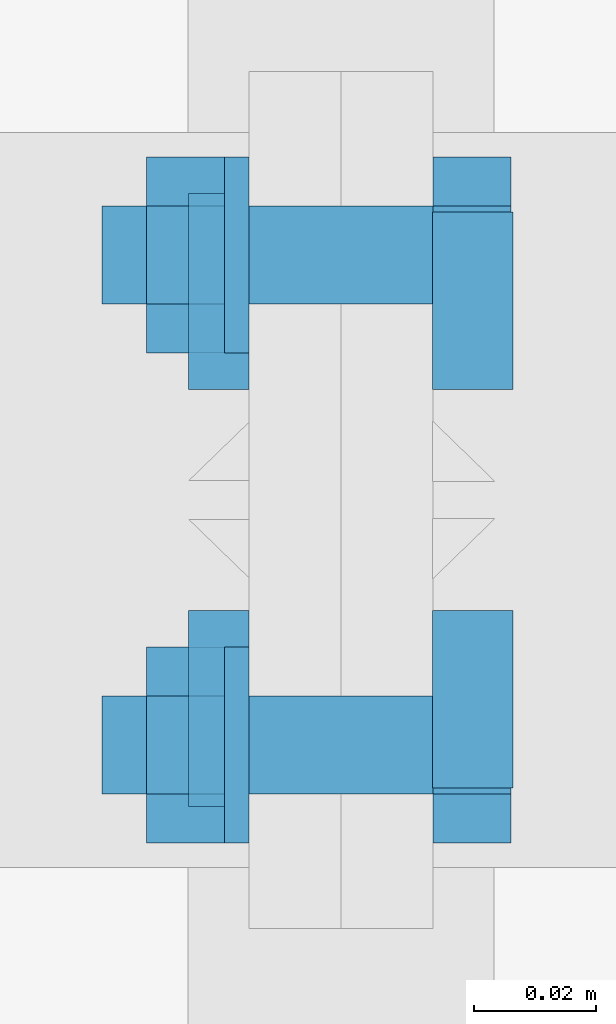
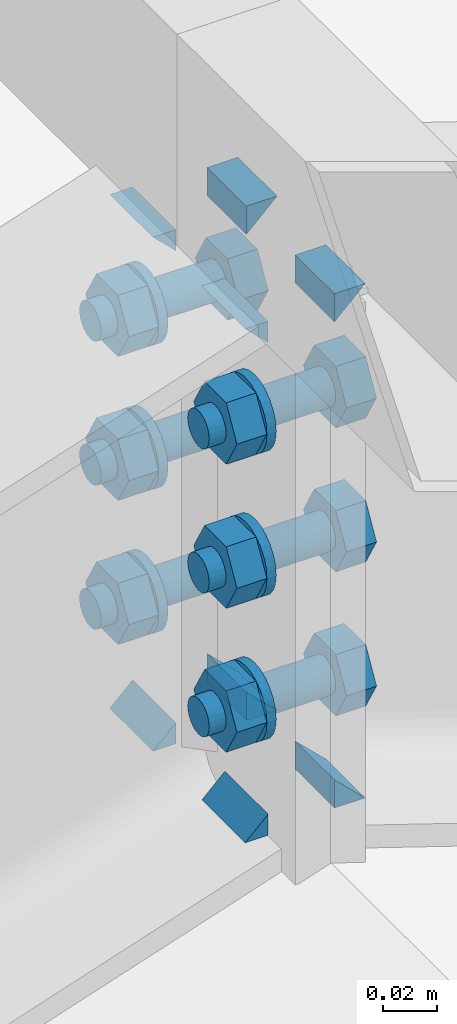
# One storey, part 29 of 53: 24 mechanical fasteners, 12 fasteners.
"""IFC4 building model written with IfcOpenShell, lengths in metres."""

import ifcopenshell
import ifcopenshell.guid

model = None  # the IFC model being written
_history = None  # IfcOwnerHistory: only IFC2X3 demands one
_inside = {}  # id of a spatial element -> (the spatial element, [elements in it])
_under = {}  # id of a project, library or spatial element -> (it, [spatial elements below it])
_declared = {}  # id of a project -> (the project, [libraries it declares])
_typed = {}  # id of a type object -> (the type object, [elements of that type])
_made_of = {}  # id of a material, layer set ... -> (it, [elements and type objects made of it])


def new_model(schema):
    """Start an empty IFC model of exactly this schema.

    Asked for "IFC4X3", IfcOpenShell would pick the latest addendum, in which some entities
    have other attributes; the version numbers below select the first issue.
    IFC2X3 requires an IfcOwnerHistory on every rooted entity: one is made here for all.
    """
    global model, _history
    if schema == "IFC4X3":
        model = ifcopenshell.file(schema_version=(4, 3, 0, 0))
    else:
        model = ifcopenshell.file(schema=schema)
    _inside.clear()
    _under.clear()
    _declared.clear()
    _typed.clear()
    _made_of.clear()
    _history = None
    if model.schema == "IFC2X3":
        org = make("IfcOrganization", Name="unknown")
        user = make(
            "IfcPersonAndOrganization",
            ThePerson=make("IfcPerson", FamilyName="unknown"),
            TheOrganization=org,
        )
        app = make(
            "IfcApplication",
            ApplicationDeveloper=org,
            Version="unknown",
            ApplicationFullName="unknown",
            ApplicationIdentifier="unknown",
        )
        _history = make(
            "IfcOwnerHistory",
            OwningUser=user,
            OwningApplication=app,
            ChangeAction="ADDED",
            CreationDate=0,
        )
    return model


def make(cls, **values):
    """One entity of the class cls with the attributes given. An attribute that is None is left unset."""
    return model.create_entity(
        cls, **{name: value for name, value in values.items() if value is not None}
    )


def rooted(cls, **values):
    """An entity with a GlobalId (a new one), such as an element, a storey or a relation."""
    return make(cls, GlobalId=ifcopenshell.guid.new(), OwnerHistory=_history, **values)


def si_unit(unit_type, name, prefix=None):
    """IfcSIUnit, for example si_unit("LENGTHUNIT", "METRE", prefix="MILLI")."""
    return make("IfcSIUnit", UnitType=unit_type, Prefix=prefix, Name=name)


def assignment(units):
    """IfcUnitAssignment: the units of a project."""
    return None if units is None else make("IfcUnitAssignment", Units=units)


def point(xyz):
    """IfcCartesianPoint."""
    return None if xyz is None else make("IfcCartesianPoint", Coordinates=xyz)


def direction(xyz):
    """IfcDirection."""
    return None if xyz is None else make("IfcDirection", DirectionRatios=xyz)


def frame(location, z_axis=None, x_axis=None):
    """IfcAxis2Placement3D, a coordinate frame: its origin and axes. An axis left out is left unset."""
    return make(
        "IfcAxis2Placement3D",
        Location=point(location),
        Axis=direction(z_axis),
        RefDirection=direction(x_axis),
    )


def origin_with_axes():
    """The frame at (0, 0, 0) with the z axis (0, 0, 1) and the x axis (1, 0, 0) written out."""
    return frame((0.0, 0.0, 0.0), z_axis=(0.0, 0.0, 1.0), x_axis=(1.0, 0.0, 0.0))


def place(relative_to, where):
    """IfcLocalPlacement: puts the frame where relative to a parent placement (None: the world)."""
    return make(
        "IfcLocalPlacement", PlacementRelTo=relative_to, RelativePlacement=where
    )


def context(
    kind, dimensions, precision=None, world=None, true_north=None, identifier=None
):
    """IfcGeometricRepresentationContext, for example the 3D "Model" context."""
    return make(
        "IfcGeometricRepresentationContext",
        ContextIdentifier=identifier,
        ContextType=kind,
        CoordinateSpaceDimension=dimensions,
        Precision=precision,
        WorldCoordinateSystem=world,
        TrueNorth=true_north,
    )


def project(units=None, contexts=None):
    """IfcProject with its units and contexts."""
    return rooted(
        "IfcProject",
        Name="project",
        RepresentationContexts=contexts,
        UnitsInContext=assignment(units),
    )


def spatial(cls, under=None, at=None, **own):
    """A site, building, storey or space (cls), placed at a placement, below another one or the project."""
    s = rooted(cls, ObjectPlacement=at, **own)
    if under is not None:
        _under.setdefault(under.id(), (under, []))[1].append(s)
    return s


def polyline(points):
    """IfcPolyline through the points."""
    return make("IfcPolyline", Points=[point(p) for p in points])


def outline(outer, holes=None, kind="AREA"):
    """IfcArbitraryClosedProfileDef: a profile drawn as a closed curve; with holes, ...WithVoids."""
    if holes is None:
        return make("IfcArbitraryClosedProfileDef", ProfileType=kind, OuterCurve=outer)
    return make(
        "IfcArbitraryProfileDefWithVoids",
        ProfileType=kind,
        OuterCurve=outer,
        InnerCurves=holes,
    )


def extrude(swept, where, along, depth):
    """IfcExtrudedAreaSolid: the profile swept, set in the frame where, extruded along a direction by depth."""
    return make(
        "IfcExtrudedAreaSolid",
        SweptArea=swept,
        Position=where,
        ExtrudedDirection=direction(along),
        Depth=depth,
    )


def shape(context_of_items, identifier, shape_type, items):
    """IfcShapeRepresentation: the items that make up one representation, for example the "Body"."""
    return make(
        "IfcShapeRepresentation",
        ContextOfItems=context_of_items,
        RepresentationIdentifier=identifier,
        RepresentationType=shape_type,
        Items=items,
    )


def made_of(thing, what):
    """Note that an element or type object is made of a material, layer set ...; save() writes the relation."""
    if what is not None:
        _made_of.setdefault(what.id(), (what, []))[1].append(thing)
    return thing


def type_object(cls, material=None, **own):
    """A type object (cls), such as IfcWallType, which elements share."""
    return made_of(rooted(cls, **own), material)


def element(
    cls,
    number,
    at=None,
    inside=None,
    cuts=None,
    type_object=None,
    material=None,
    context=None,
    identifier="Body",
    shape_type=None,
    held_by="IfcProductDefinitionShape",
    body=None,
    shapes=None,
    **own,
):
    """One element of the class cls, such as IfcWall. Its Tag is "e" and its number.

    at: its placement. inside: the storey or other place that contains it. cuts: it is an
    opening in that element (IfcRelVoidsElement). A single representation is given by context,
    identifier, shape_type and body (its items); several are given by shapes. held_by: the class
    of the entity that holds the representations. save() writes the other relations.
    """
    e = rooted(cls, Tag="e%d" % number, ObjectPlacement=at, **own)
    if body is not None:
        shapes = [shape(context, identifier, shape_type, body)]
    if shapes is not None:
        e.Representation = make(held_by, Representations=shapes)
    if inside is not None:
        _inside.setdefault(inside.id(), (inside, []))[1].append(e)
    if cuts is not None:
        rooted(
            "IfcRelVoidsElement", RelatingBuildingElement=cuts, RelatedOpeningElement=e
        )
    if type_object is not None:
        _typed.setdefault(type_object.id(), (type_object, []))[1].append(e)
    return made_of(e, material)


def aggregate(whole, parts):
    """IfcRelAggregates: a whole, such as a stair, and the parts it consists of."""
    return rooted("IfcRelAggregates", RelatingObject=whole, RelatedObjects=parts)


def save(model, path):
    """Write the relations noted so far, then the file.

    IfcRelAggregates (storeys below a building ...), IfcRelContainedInSpatialStructure (elements
    in a storey), IfcRelDefinesByType, IfcRelAssociatesMaterial and IfcRelDeclares: one each for
    every whole, place, type object, material and project.
    """
    for whole, parts in _under.values():
        aggregate(whole, parts)
    for where, things in _inside.values():
        rooted(
            "IfcRelContainedInSpatialStructure",
            RelatedElements=things,
            RelatingStructure=where,
        )
    for kind, things in _typed.values():
        rooted("IfcRelDefinesByType", RelatedObjects=things, RelatingType=kind)
    for what, things in _made_of.values():
        rooted("IfcRelAssociatesMaterial", RelatedObjects=things, RelatingMaterial=what)
    for by, libraries in _declared.values():
        rooted("IfcRelDeclares", RelatingContext=by, RelatedDefinitions=libraries)
    model.write(path)


model = new_model("IFC4")

# Units and contexts
model_context = context("Model", 3, precision=1e-05, world=origin_with_axes())
ifc_project = project(units=[si_unit("LENGTHUNIT", "METRE"), si_unit("AREAUNIT", "SQUARE_METRE"), si_unit("VOLUMEUNIT", "CUBIC_METRE"), si_unit("MASSUNIT", "GRAM", prefix="KILO"), si_unit("TIMEUNIT", "SECOND"), si_unit("PLANEANGLEUNIT", "RADIAN"), si_unit("SOLIDANGLEUNIT", "STERADIAN"), si_unit("THERMODYNAMICTEMPERATUREUNIT", "DEGREE_CELSIUS")], contexts=[model_context])

# Site, building, storey
placement_1 = place(None, origin_with_axes())
site = spatial("IfcSite", under=ifc_project, at=placement_1, Name="Italia", CompositionType="ELEMENT")
building = spatial("IfcBuilding", under=site, at=placement_1, Name="Capannone", CompositionType="ELEMENT")
storey_placement = place(None, frame((0.0, 0.0, 5.550000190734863), z_axis=(0.0, 0.0, 1.0), x_axis=(1.0, 0.0, 0.0)))
storey = spatial("IfcBuildingStorey", under=building, at=storey_placement, Name="Storey 1", CompositionType="ELEMENT", Elevation=5.550000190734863)

# Fasteners
fastener_type_1 = type_object("IfcFastenerType", Name="Collegamenti -1142_-1128 -1143_-1130 -1144_-1132 -1145_-1134 -1146_-1136 -1147_-1138", PredefinedType="WELD")
placement_2 = place(placement_1, origin_with_axes())
fastener_1_placement = place(placement_2, origin_with_axes())
element("IfcFastener", 1, at=fastener_1_placement, inside=storey, type_object=fastener_type_1, Name="Collegamenti -1142_-1128 -1143_-1130 -1144_-1132 -1145_-1134 -1146_-1136 -1147_-1138", context=model_context, shape_type="SweptSolid", body=[
    extrude(outline(polyline([(0.0, 0.0), (-0.0131736, 0.0127764), (4.76837e-07, 0.0127764), (0.0, 0.0)])), frame((7.01495, 5.95295, 8.07465), z_axis=(0.0, 1.0, 0.0), x_axis=(-1.0, 0.0, 0.0)), (0.0, 0.0, 1.0), 0.0289998),
])
fastener_type_2 = type_object("IfcFastenerType", Name="Collegamenti -1142_-1128 -1143_-1130 -1144_-1132 -1145_-1134 -1146_-1136 -1147_-1138", PredefinedType="WELD")
fastener_2_placement = place(placement_2, origin_with_axes())
element("IfcFastener", 2, at=fastener_2_placement, inside=storey, type_object=fastener_type_2, Name="Collegamenti -1142_-1128 -1143_-1130 -1144_-1132 -1145_-1134 -1146_-1136 -1147_-1138", context=model_context, shape_type="SweptSolid", body=[
    extrude(outline(polyline([(0.0, 0.0), (0.0131736, -0.0127788), (0.0, -0.0127788), (0.0, 0.0)])), frame((7.01495, 5.98195, 7.86811), z_axis=(0.0, -1.0, 0.0), x_axis=(1.0, 0.0, 0.0)), (0.0, 0.0, 1.0), 0.0289998),
])
fastener_type_3 = type_object("IfcFastenerType", Name="Collegamenti -1142_-1128 -1143_-1130 -1144_-1132 -1145_-1134 -1146_-1136 -1147_-1138", PredefinedType="WELD")
fastener_3_placement = place(placement_2, origin_with_axes())
element("IfcFastener", 3, at=fastener_3_placement, inside=storey, type_object=fastener_type_3, Name="Collegamenti -1142_-1128 -1143_-1130 -1144_-1132 -1145_-1134 -1146_-1136 -1147_-1138", context=model_context, shape_type="SweptSolid", body=[
    extrude(outline(polyline([(0.0, 0.0), (0.0131736, -0.0127788), (0.0, -0.0127788), (0.0, 0.0)])), frame((7.01495, 6.04705, 7.86811), z_axis=(0.0, -1.0, 0.0), x_axis=(1.0, 0.0, 0.0)), (0.0, 0.0, 1.0), 0.0289998),
])
fastener_type_4 = type_object("IfcFastenerType", Name="Collegamenti -1142_-1128 -1143_-1130 -1144_-1132 -1145_-1134 -1146_-1136 -1147_-1138", PredefinedType="WELD")
fastener_4_placement = place(placement_2, origin_with_axes())
element("IfcFastener", 4, at=fastener_4_placement, inside=storey, type_object=fastener_type_4, Name="Collegamenti -1142_-1128 -1143_-1130 -1144_-1132 -1145_-1134 -1146_-1136 -1147_-1138", context=model_context, shape_type="SweptSolid", body=[
    extrude(outline(polyline([(0.0, 0.0), (-0.0131736, 0.0127764), (4.76837e-07, 0.0127764), (0.0, 0.0)])), frame((7.01495, 6.01805, 8.07465), z_axis=(0.0, 1.0, 0.0), x_axis=(-1.0, 0.0, 0.0)), (0.0, 0.0, 1.0), 0.0289998),
])
fastener_type_5 = type_object("IfcFastenerType", Name="Collegamenti -1142_-1128 -1143_-1130 -1144_-1132 -1145_-1134 -1146_-1136 -1147_-1138", PredefinedType="WELD")
fastener_5_placement = place(placement_2, origin_with_axes())
element("IfcFastener", 5, at=fastener_5_placement, inside=storey, type_object=fastener_type_5, Name="Collegamenti -1142_-1128 -1143_-1130 -1144_-1132 -1145_-1134 -1146_-1136 -1147_-1138", context=model_context, shape_type="SweptSolid", body=[
    extrude(outline(polyline([(0.0, 0.0), (-0.0131736, 0.0127764), (4.76837e-07, 0.0127764), (0.0, 0.0)])), frame((7.01495, 5.95295, 8.07465), z_axis=(0.0, 1.0, 0.0), x_axis=(-1.0, 0.0, 0.0)), (0.0, 0.0, 1.0), 0.0289998),
])
fastener_type_6 = type_object("IfcFastenerType", Name="Collegamenti -1142_-1128 -1143_-1130 -1144_-1132 -1145_-1134 -1146_-1136 -1147_-1138", PredefinedType="WELD")
fastener_6_placement = place(placement_2, origin_with_axes())
element("IfcFastener", 6, at=fastener_6_placement, inside=storey, type_object=fastener_type_6, Name="Collegamenti -1142_-1128 -1143_-1130 -1144_-1132 -1145_-1134 -1146_-1136 -1147_-1138", context=model_context, shape_type="SweptSolid", body=[
    extrude(outline(polyline([(0.0, 0.0), (0.0131736, -0.0127788), (0.0, -0.0127788), (0.0, 0.0)])), frame((7.01495, 5.98195, 7.86811), z_axis=(0.0, -1.0, 0.0), x_axis=(1.0, 0.0, 0.0)), (0.0, 0.0, 1.0), 0.0289998),
])
fastener_type_7 = type_object("IfcFastenerType", Name="Collegamenti -1142_-1128 -1143_-1130 -1144_-1132 -1145_-1134 -1146_-1136 -1147_-1138", PredefinedType="WELD")
fastener_7_placement = place(placement_2, origin_with_axes())
element("IfcFastener", 7, at=fastener_7_placement, inside=storey, type_object=fastener_type_7, Name="Collegamenti -1142_-1128 -1143_-1130 -1144_-1132 -1145_-1134 -1146_-1136 -1147_-1138", context=model_context, shape_type="SweptSolid", body=[
    extrude(outline(polyline([(0.0, 0.0), (0.0131736, -0.0127788), (0.0, -0.0127788), (0.0, 0.0)])), frame((7.01495, 6.04705, 7.86811), z_axis=(0.0, -1.0, 0.0), x_axis=(1.0, 0.0, 0.0)), (0.0, 0.0, 1.0), 0.0289998),
])
fastener_type_8 = type_object("IfcFastenerType", Name="Collegamenti -1142_-1128 -1143_-1130 -1144_-1132 -1145_-1134 -1146_-1136 -1147_-1138", PredefinedType="WELD")
fastener_8_placement = place(placement_2, origin_with_axes())
element("IfcFastener", 8, at=fastener_8_placement, inside=storey, type_object=fastener_type_8, Name="Collegamenti -1142_-1128 -1143_-1130 -1144_-1132 -1145_-1134 -1146_-1136 -1147_-1138", context=model_context, shape_type="SweptSolid", body=[
    extrude(outline(polyline([(0.0, 0.0), (-0.0131736, 0.0127764), (4.76837e-07, 0.0127764), (0.0, 0.0)])), frame((7.01495, 6.01805, 8.07465), z_axis=(0.0, 1.0, 0.0), x_axis=(-1.0, 0.0, 0.0)), (0.0, 0.0, 1.0), 0.0289998),
])
fastener_type_9 = type_object("IfcFastenerType", Name="Collegamenti -1142_-1128 -1143_-1130 -1144_-1132 -1145_-1134 -1146_-1136 -1147_-1138", PredefinedType="WELD")
fastener_9_placement = place(placement_2, origin_with_axes())
element("IfcFastener", 9, at=fastener_9_placement, inside=storey, type_object=fastener_type_9, Name="Collegamenti -1142_-1128 -1143_-1130 -1144_-1132 -1145_-1134 -1146_-1136 -1147_-1138", context=model_context, shape_type="SweptSolid", body=[
    extrude(outline(polyline([(0.0, 0.0), (-0.00982714, -0.0095315), (0.0, -0.0095315), (0.0, 0.0)])), frame((6.98495, 6.05005, 7.86497), z_axis=(0.0, -1.0, 0.0), x_axis=(1.0, 0.0, 0.0)), (0.0, 0.0, 1.0), 0.0319996),
])
fastener_type_10 = type_object("IfcFastenerType", Name="Collegamenti -1142_-1128 -1143_-1130 -1144_-1132 -1145_-1134 -1146_-1136 -1147_-1138", PredefinedType="WELD")
fastener_10_placement = place(placement_2, origin_with_axes())
element("IfcFastener", 10, at=fastener_10_placement, inside=storey, type_object=fastener_type_10, Name="Collegamenti -1142_-1128 -1143_-1130 -1144_-1132 -1145_-1134 -1146_-1136 -1147_-1138", context=model_context, shape_type="SweptSolid", body=[
    extrude(outline(polyline([(0.0, 0.0), (0.00982714, 0.00953293), (0.0, 0.00953197), (0.0, 0.0)])), frame((6.98495, 6.01805, 8.0778), z_axis=(0.0, 1.0, 0.0), x_axis=(-1.0, 0.0, 0.0)), (0.0, 0.0, 1.0), 0.0319996),
])
fastener_type_11 = type_object("IfcFastenerType", Name="Collegamenti -1142_-1128 -1143_-1130 -1144_-1132 -1145_-1134 -1146_-1136 -1147_-1138", PredefinedType="WELD")
fastener_11_placement = place(placement_2, origin_with_axes())
element("IfcFastener", 11, at=fastener_11_placement, inside=storey, type_object=fastener_type_11, Name="Collegamenti -1142_-1128 -1143_-1130 -1144_-1132 -1145_-1134 -1146_-1136 -1147_-1138", context=model_context, shape_type="SweptSolid", body=[
    extrude(outline(polyline([(0.0, 0.0), (0.00982714, 0.00953293), (0.0, 0.00953197), (0.0, 0.0)])), frame((6.98495, 5.94995, 8.0778), z_axis=(0.0, 1.0, 0.0), x_axis=(-1.0, 0.0, 0.0)), (0.0, 0.0, 1.0), 0.0319996),
])
fastener_type_12 = type_object("IfcFastenerType", Name="Collegamenti -1142_-1128 -1143_-1130 -1144_-1132 -1145_-1134 -1146_-1136 -1147_-1138", PredefinedType="WELD")
fastener_12_placement = place(placement_2, origin_with_axes())
element("IfcFastener", 12, at=fastener_12_placement, inside=storey, type_object=fastener_type_12, Name="Collegamenti -1142_-1128 -1143_-1130 -1144_-1132 -1145_-1134 -1146_-1136 -1147_-1138", context=model_context, shape_type="SweptSolid", body=[
    extrude(outline(polyline([(0.0, 0.0), (-0.00982714, -0.0095315), (0.0, -0.0095315), (0.0, 0.0)])), frame((6.98495, 5.98195, 7.86497), z_axis=(0.0, -1.0, 0.0), x_axis=(1.0, 0.0, 0.0)), (0.0, 0.0, 1.0), 0.0319996),
])

# Mechanical fasteners
mechanical_fastener_type_1 = type_object("IfcMechanicalFastenerType", Name="Collegamenti -1142_-1128 -1143_-1130 -1144_-1132 -1145_-1134 -1146_-1136 -1147_-1138", PredefinedType="BOLT")
mechanical_fastener_1_placement = place(placement_2, origin_with_axes())
element("IfcMechanicalFastener", 13, at=mechanical_fastener_1_placement, inside=storey, type_object=mechanical_fastener_type_1, Name="Collegamenti -1142_-1128 -1143_-1130 -1144_-1132 -1145_-1134 -1146_-1136 -1147_-1138", NominalDiameter=0.0159995, context=model_context, shape_type="SweptSolid", body=[
    extrude(outline(polyline([(0.0, 0.0), (-0.0159998, 0.0), (-0.0240002, 0.0138559), (-0.0159998, 0.0277119), (0.0, 0.0277119), (0.0079999, 0.0138559), (0.0, 0.0)])), frame((7.015, 5.968, 7.89746), z_axis=(1.0, 0.0, -3.7253659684e-05), x_axis=(0.0, 1.0, 0.0)), (0.0, 0.0, 1.0), 0.0127997),
])
mechanical_fastener_type_2 = type_object("IfcMechanicalFastenerType", Name="Collegamenti -1142_-1128 -1143_-1130 -1144_-1132 -1145_-1134 -1146_-1136 -1147_-1138", PredefinedType="BOLT")
mechanical_fastener_2_placement = place(placement_2, origin_with_axes())
element("IfcMechanicalFastener", 14, at=mechanical_fastener_2_placement, inside=storey, type_object=mechanical_fastener_type_2, Name="Collegamenti -1142_-1128 -1143_-1130 -1144_-1132 -1145_-1134 -1146_-1136 -1147_-1138", NominalDiameter=0.016, context=model_context, shape_type="SweptSolid", body=[
    extrude(outline(polyline([(0.0, 0.0), (-0.000272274, -0.00207043), (-0.00107193, -0.00400019), (-0.00234318, -0.00565672), (-0.00399971, -0.00692797), (-0.00592947, -0.00772762), (-0.0079999, -0.0079999), (-0.0100703, -0.00772762), (-0.0120001, -0.00692797), (-0.0136566, -0.00565672), (-0.0149279, -0.00400019), (-0.0157275, -0.00207043), (-0.0159998, 0.0), (-0.0157275, 0.00207043), (-0.0149279, 0.00400019), (-0.0136566, 0.00565672), (-0.0120001, 0.00692797), (-0.0100703, 0.00772762), (-0.0079999, 0.0079999), (-0.00592947, 0.00772762), (-0.00399971, 0.00692797), (-0.00234318, 0.00565672), (-0.00107193, 0.00400019), (-0.000272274, 0.00207043), (0.0, 0.0)])), frame((6.961, 5.968, 7.91131), z_axis=(1.0, 0.0, -1.7660668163e-05), x_axis=(0.0, 1.0, 0.0)), (0.0, 0.0, 1.0), 0.0539999),
])
mechanical_fastener_type_3 = type_object("IfcMechanicalFastenerType", Name="Collegamenti -1142_-1128 -1143_-1130 -1144_-1132 -1145_-1134 -1146_-1136 -1147_-1138", PredefinedType="BOLT")
mechanical_fastener_3_placement = place(placement_2, origin_with_axes())
element("IfcMechanicalFastener", 15, at=mechanical_fastener_3_placement, inside=storey, type_object=mechanical_fastener_type_3, Name="Collegamenti -1142_-1128 -1143_-1130 -1144_-1132 -1145_-1134 -1146_-1136 -1147_-1138", NominalDiameter=0.0159995, context=model_context, shape_type="SweptSolid", body=[
    extrude(outline(polyline([(0.0, 0.0), (-0.0159998, 0.0), (-0.0240002, 0.0138569), (-0.0159998, 0.0277128), (0.0, 0.0277128), (0.0079999, 0.0138569), (0.0, 0.0)])), frame((6.9682, 5.968, 7.89746), z_axis=(1.0, 0.0, 0.0), x_axis=(0.0, 1.0, 0.0)), (0.0, 0.0, 1.0), 0.0128002),
])
mechanical_fastener_type_4 = type_object("IfcMechanicalFastenerType", Name="Collegamenti -1142_-1128 -1143_-1130 -1144_-1132 -1145_-1134 -1146_-1136 -1147_-1138", PredefinedType="BOLT")
mechanical_fastener_4_placement = place(placement_2, origin_with_axes())
element("IfcMechanicalFastener", 16, at=mechanical_fastener_4_placement, inside=storey, type_object=mechanical_fastener_type_4, Name="Collegamenti -1142_-1128 -1143_-1130 -1144_-1132 -1145_-1134 -1146_-1136 -1147_-1138", NominalDiameter=0.032, context=model_context, shape_type="SweptSolid", body=[
    extrude(outline(polyline([(0.0, 0.0), (-0.000545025, -0.00414133), (-0.00214338, -0.0079999), (-0.00468588, -0.0113139), (-0.0079999, -0.0138564), (-0.0118585, -0.0154548), (-0.0159998, -0.0159998), (-0.0201411, -0.0154548), (-0.0239997, -0.0138564), (-0.0273137, -0.0113139), (-0.0298562, -0.0079999), (-0.0314546, -0.00414133), (-0.0319996, 0.0), (-0.0314546, 0.00414133), (-0.0298562, 0.0079999), (-0.0273137, 0.0113139), (-0.0239997, 0.0138564), (-0.0201411, 0.0154548), (-0.0159998, 0.0159998), (-0.0118585, 0.0154548), (-0.0079999, 0.0138564), (-0.00468588, 0.0113139), (-0.00214338, 0.0079999), (-0.000545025, 0.00414133), (0.0, 0.0)])), frame((6.981, 5.976, 7.91131), z_axis=(1.0, 0.0, 0.0), x_axis=(0.0, 1.0, 0.0)), (0.0, 0.0, 1.0), 0.00399923),
])
mechanical_fastener_type_5 = type_object("IfcMechanicalFastenerType", Name="Collegamenti -1142_-1128 -1143_-1130 -1144_-1132 -1145_-1134 -1146_-1136 -1147_-1138", PredefinedType="BOLT")
mechanical_fastener_5_placement = place(placement_2, origin_with_axes())
element("IfcMechanicalFastener", 17, at=mechanical_fastener_5_placement, inside=storey, type_object=mechanical_fastener_type_5, Name="Collegamenti -1142_-1128 -1143_-1130 -1144_-1132 -1145_-1134 -1146_-1136 -1147_-1138", NominalDiameter=0.0159995, context=model_context, shape_type="SweptSolid", body=[
    extrude(outline(polyline([(0.0, 0.0), (-0.0159998, 0.0), (-0.0239997, 0.0138559), (-0.0159998, 0.0277119), (0.0, 0.0277119), (0.00800037, 0.0138559), (0.0, 0.0)])), frame((7.015, 6.048, 7.89746), z_axis=(1.0, 0.0, -3.7253659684e-05), x_axis=(0.0, 1.0, 0.0)), (0.0, 0.0, 1.0), 0.0127997),
])
mechanical_fastener_type_6 = type_object("IfcMechanicalFastenerType", Name="Collegamenti -1142_-1128 -1143_-1130 -1144_-1132 -1145_-1134 -1146_-1136 -1147_-1138", PredefinedType="BOLT")
mechanical_fastener_6_placement = place(placement_2, origin_with_axes())
element("IfcMechanicalFastener", 18, at=mechanical_fastener_6_placement, inside=storey, type_object=mechanical_fastener_type_6, Name="Collegamenti -1142_-1128 -1143_-1130 -1144_-1132 -1145_-1134 -1146_-1136 -1147_-1138", NominalDiameter=0.016, context=model_context, shape_type="SweptSolid", body=[
    extrude(outline(polyline([(0.0, 0.0), (-0.000272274, -0.00207043), (-0.00107193, -0.00400019), (-0.00234318, -0.00565672), (-0.00399971, -0.00692797), (-0.00592947, -0.00772762), (-0.0079999, -0.0079999), (-0.0100703, -0.00772762), (-0.0120001, -0.00692797), (-0.0136566, -0.00565672), (-0.0149279, -0.00400019), (-0.0157275, -0.00207043), (-0.0159998, 0.0), (-0.0157275, 0.00207043), (-0.0149279, 0.00400019), (-0.0136566, 0.00565672), (-0.0120001, 0.00692797), (-0.0100703, 0.00772762), (-0.0079999, 0.0079999), (-0.00592947, 0.00772762), (-0.00399971, 0.00692797), (-0.00234318, 0.00565672), (-0.00107193, 0.00400019), (-0.000272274, 0.00207043), (0.0, 0.0)])), frame((6.961, 6.048, 7.91131), z_axis=(1.0, 0.0, -1.7660668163e-05), x_axis=(0.0, 1.0, 0.0)), (0.0, 0.0, 1.0), 0.0539999),
])
mechanical_fastener_type_7 = type_object("IfcMechanicalFastenerType", Name="Collegamenti -1142_-1128 -1143_-1130 -1144_-1132 -1145_-1134 -1146_-1136 -1147_-1138", PredefinedType="BOLT")
mechanical_fastener_7_placement = place(placement_2, origin_with_axes())
element("IfcMechanicalFastener", 19, at=mechanical_fastener_7_placement, inside=storey, type_object=mechanical_fastener_type_7, Name="Collegamenti -1142_-1128 -1143_-1130 -1144_-1132 -1145_-1134 -1146_-1136 -1147_-1138", NominalDiameter=0.0159995, context=model_context, shape_type="SweptSolid", body=[
    extrude(outline(polyline([(0.0, 0.0), (-0.0159998, 0.0), (-0.0239997, 0.0138569), (-0.0159998, 0.0277128), (0.0, 0.0277128), (0.00800037, 0.0138569), (0.0, 0.0)])), frame((6.9682, 6.048, 7.89746), z_axis=(1.0, 0.0, 0.0), x_axis=(0.0, 1.0, 0.0)), (0.0, 0.0, 1.0), 0.0128002),
])
mechanical_fastener_type_8 = type_object("IfcMechanicalFastenerType", Name="Collegamenti -1142_-1128 -1143_-1130 -1144_-1132 -1145_-1134 -1146_-1136 -1147_-1138", PredefinedType="BOLT")
mechanical_fastener_8_placement = place(placement_2, origin_with_axes())
element("IfcMechanicalFastener", 20, at=mechanical_fastener_8_placement, inside=storey, type_object=mechanical_fastener_type_8, Name="Collegamenti -1142_-1128 -1143_-1130 -1144_-1132 -1145_-1134 -1146_-1136 -1147_-1138", NominalDiameter=0.032, context=model_context, shape_type="SweptSolid", body=[
    extrude(outline(polyline([(0.0, 0.0), (-0.000545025, -0.00414133), (-0.00214338, -0.0079999), (-0.00468588, -0.0113139), (-0.0079999, -0.0138564), (-0.0118585, -0.0154548), (-0.0159998, -0.0159998), (-0.0201411, -0.0154548), (-0.0239997, -0.0138564), (-0.0273137, -0.0113139), (-0.0298562, -0.0079999), (-0.0314546, -0.00414133), (-0.0319996, 0.0), (-0.0314546, 0.00414133), (-0.0298562, 0.0079999), (-0.0273137, 0.0113139), (-0.0239997, 0.0138564), (-0.0201411, 0.0154548), (-0.0159998, 0.0159998), (-0.0118585, 0.0154548), (-0.0079999, 0.0138564), (-0.00468588, 0.0113139), (-0.00214338, 0.0079999), (-0.000545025, 0.00414133), (0.0, 0.0)])), frame((6.981, 6.056, 7.91131), z_axis=(1.0, 0.0, 0.0), x_axis=(0.0, 1.0, 0.0)), (0.0, 0.0, 1.0), 0.00399923),
])
mechanical_fastener_type_9 = type_object("IfcMechanicalFastenerType", Name="Collegamenti -1142_-1128 -1143_-1130 -1144_-1132 -1145_-1134 -1146_-1136 -1147_-1138", PredefinedType="BOLT")
mechanical_fastener_9_placement = place(placement_2, origin_with_axes())
element("IfcMechanicalFastener", 21, at=mechanical_fastener_9_placement, inside=storey, type_object=mechanical_fastener_type_9, Name="Collegamenti -1142_-1128 -1143_-1130 -1144_-1132 -1145_-1134 -1146_-1136 -1147_-1138", NominalDiameter=0.0159995, context=model_context, shape_type="SweptSolid", body=[
    extrude(outline(polyline([(0.0, 0.0), (-0.0159998, 0.0), (-0.0240002, 0.0138559), (-0.0159998, 0.0277128), (0.0, 0.0277128), (0.0079999, 0.0138559), (0.0, 0.0)])), frame((7.015, 5.968, 7.96246), z_axis=(1.0, 0.0, 3.7252273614e-05), x_axis=(0.0, 1.0, 0.0)), (0.0, 0.0, 1.0), 0.0128002),
])
mechanical_fastener_type_10 = type_object("IfcMechanicalFastenerType", Name="Collegamenti -1142_-1128 -1143_-1130 -1144_-1132 -1145_-1134 -1146_-1136 -1147_-1138", PredefinedType="BOLT")
mechanical_fastener_10_placement = place(placement_2, origin_with_axes())
element("IfcMechanicalFastener", 22, at=mechanical_fastener_10_placement, inside=storey, type_object=mechanical_fastener_type_10, Name="Collegamenti -1142_-1128 -1143_-1130 -1144_-1132 -1145_-1134 -1146_-1136 -1147_-1138", NominalDiameter=0.016, context=model_context, shape_type="SweptSolid", body=[
    extrude(outline(polyline([(0.0, 0.0), (-0.000272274, -0.00207043), (-0.00107193, -0.00400019), (-0.00234318, -0.00565672), (-0.00399971, -0.00692797), (-0.00592947, -0.00772762), (-0.0079999, -0.0079999), (-0.0100703, -0.00772762), (-0.0120001, -0.00692797), (-0.0136566, -0.00565672), (-0.0149279, -0.00400019), (-0.0157275, -0.00207043), (-0.0159998, 0.0), (-0.0157275, 0.00207043), (-0.0149279, 0.00400019), (-0.0136566, 0.00565672), (-0.0120001, 0.00692797), (-0.0100703, 0.00772762), (-0.0079999, 0.0079999), (-0.00592947, 0.00772762), (-0.00399971, 0.00692797), (-0.00234318, 0.00565672), (-0.00107193, 0.00400019), (-0.000272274, 0.00207043), (0.0, 0.0)])), frame((6.961, 5.968, 7.97631), z_axis=(1.0, 0.0, 0.0), x_axis=(0.0, 1.0, 0.0)), (0.0, 0.0, 1.0), 0.0539999),
])
mechanical_fastener_type_11 = type_object("IfcMechanicalFastenerType", Name="Collegamenti -1142_-1128 -1143_-1130 -1144_-1132 -1145_-1134 -1146_-1136 -1147_-1138", PredefinedType="BOLT")
mechanical_fastener_11_placement = place(placement_2, origin_with_axes())
element("IfcMechanicalFastener", 23, at=mechanical_fastener_11_placement, inside=storey, type_object=mechanical_fastener_type_11, Name="Collegamenti -1142_-1128 -1143_-1130 -1144_-1132 -1145_-1134 -1146_-1136 -1147_-1138", NominalDiameter=0.0159995, context=model_context, shape_type="SweptSolid", body=[
    extrude(outline(polyline([(0.0, 0.0), (-0.0159998, 0.0), (-0.0240002, 0.0138559), (-0.0159998, 0.0277128), (0.0, 0.0277128), (0.0079999, 0.0138559), (0.0, 0.0)])), frame((6.9682, 5.968, 7.96246), z_axis=(1.0, 0.0, -3.7253659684e-05), x_axis=(0.0, 1.0, 0.0)), (0.0, 0.0, 1.0), 0.0127997),
])
mechanical_fastener_type_12 = type_object("IfcMechanicalFastenerType", Name="Collegamenti -1142_-1128 -1143_-1130 -1144_-1132 -1145_-1134 -1146_-1136 -1147_-1138", PredefinedType="BOLT")
mechanical_fastener_12_placement = place(placement_2, origin_with_axes())
element("IfcMechanicalFastener", 24, at=mechanical_fastener_12_placement, inside=storey, type_object=mechanical_fastener_type_12, Name="Collegamenti -1142_-1128 -1143_-1130 -1144_-1132 -1145_-1134 -1146_-1136 -1147_-1138", NominalDiameter=0.032, context=model_context, shape_type="SweptSolid", body=[
    extrude(outline(polyline([(0.0, 0.0), (-0.000545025, -0.00414133), (-0.00214338, -0.0079999), (-0.00468588, -0.0113139), (-0.0079999, -0.0138564), (-0.0118585, -0.0154548), (-0.0159998, -0.0159998), (-0.0201411, -0.0154548), (-0.0239997, -0.0138564), (-0.0273137, -0.0113139), (-0.0298562, -0.0079999), (-0.0314546, -0.00414133), (-0.0319996, 0.0), (-0.0314546, 0.00414133), (-0.0298562, 0.0079999), (-0.0273137, 0.0113139), (-0.0239997, 0.0138564), (-0.0201411, 0.0154548), (-0.0159998, 0.0159998), (-0.0118585, 0.0154548), (-0.0079999, 0.0138564), (-0.00468588, 0.0113139), (-0.00214338, 0.0079999), (-0.000545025, 0.00414133), (0.0, 0.0)])), frame((6.981, 5.976, 7.97631), z_axis=(1.0, 0.0, 0.000238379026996), x_axis=(0.0, 1.0, 0.0)), (0.0, 0.0, 1.0), 0.00400066),
])
mechanical_fastener_type_13 = type_object("IfcMechanicalFastenerType", Name="Collegamenti -1142_-1128 -1143_-1130 -1144_-1132 -1145_-1134 -1146_-1136 -1147_-1138", PredefinedType="BOLT")
mechanical_fastener_13_placement = place(placement_2, origin_with_axes())
element("IfcMechanicalFastener", 25, at=mechanical_fastener_13_placement, inside=storey, type_object=mechanical_fastener_type_13, Name="Collegamenti -1142_-1128 -1143_-1130 -1144_-1132 -1145_-1134 -1146_-1136 -1147_-1138", NominalDiameter=0.0159995, context=model_context, shape_type="SweptSolid", body=[
    extrude(outline(polyline([(0.0, 0.0), (-0.0159998, 0.0), (-0.0239997, 0.0138559), (-0.0159998, 0.0277128), (0.0, 0.0277128), (0.00800037, 0.0138559), (0.0, 0.0)])), frame((7.015, 6.048, 7.96246), z_axis=(1.0, 0.0, 3.7252273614e-05), x_axis=(0.0, 1.0, 0.0)), (0.0, 0.0, 1.0), 0.0128002),
])
mechanical_fastener_type_14 = type_object("IfcMechanicalFastenerType", Name="Collegamenti -1142_-1128 -1143_-1130 -1144_-1132 -1145_-1134 -1146_-1136 -1147_-1138", PredefinedType="BOLT")
mechanical_fastener_14_placement = place(placement_2, origin_with_axes())
element("IfcMechanicalFastener", 26, at=mechanical_fastener_14_placement, inside=storey, type_object=mechanical_fastener_type_14, Name="Collegamenti -1142_-1128 -1143_-1130 -1144_-1132 -1145_-1134 -1146_-1136 -1147_-1138", NominalDiameter=0.016, context=model_context, shape_type="SweptSolid", body=[
    extrude(outline(polyline([(0.0, 0.0), (-0.000272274, -0.00207043), (-0.00107193, -0.00400019), (-0.00234318, -0.00565672), (-0.00399971, -0.00692797), (-0.00592947, -0.00772762), (-0.0079999, -0.0079999), (-0.0100703, -0.00772762), (-0.0120001, -0.00692797), (-0.0136566, -0.00565672), (-0.0149279, -0.00400019), (-0.0157275, -0.00207043), (-0.0159998, 0.0), (-0.0157275, 0.00207043), (-0.0149279, 0.00400019), (-0.0136566, 0.00565672), (-0.0120001, 0.00692797), (-0.0100703, 0.00772762), (-0.0079999, 0.0079999), (-0.00592947, 0.00772762), (-0.00399971, 0.00692797), (-0.00234318, 0.00565672), (-0.00107193, 0.00400019), (-0.000272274, 0.00207043), (0.0, 0.0)])), frame((6.961, 6.048, 7.97631), z_axis=(1.0, 0.0, 0.0), x_axis=(0.0, 1.0, 0.0)), (0.0, 0.0, 1.0), 0.0539999),
])
mechanical_fastener_type_15 = type_object("IfcMechanicalFastenerType", Name="Collegamenti -1142_-1128 -1143_-1130 -1144_-1132 -1145_-1134 -1146_-1136 -1147_-1138", PredefinedType="BOLT")
mechanical_fastener_15_placement = place(placement_2, origin_with_axes())
element("IfcMechanicalFastener", 27, at=mechanical_fastener_15_placement, inside=storey, type_object=mechanical_fastener_type_15, Name="Collegamenti -1142_-1128 -1143_-1130 -1144_-1132 -1145_-1134 -1146_-1136 -1147_-1138", NominalDiameter=0.0159995, context=model_context, shape_type="SweptSolid", body=[
    extrude(outline(polyline([(0.0, 0.0), (-0.0159998, 0.0), (-0.0239997, 0.0138559), (-0.0159998, 0.0277128), (0.0, 0.0277128), (0.00800037, 0.0138559), (0.0, 0.0)])), frame((6.9682, 6.048, 7.96246), z_axis=(1.0, 0.0, -3.7253659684e-05), x_axis=(0.0, 1.0, 0.0)), (0.0, 0.0, 1.0), 0.0127997),
])
mechanical_fastener_type_16 = type_object("IfcMechanicalFastenerType", Name="Collegamenti -1142_-1128 -1143_-1130 -1144_-1132 -1145_-1134 -1146_-1136 -1147_-1138", PredefinedType="BOLT")
mechanical_fastener_16_placement = place(placement_2, origin_with_axes())
element("IfcMechanicalFastener", 28, at=mechanical_fastener_16_placement, inside=storey, type_object=mechanical_fastener_type_16, Name="Collegamenti -1142_-1128 -1143_-1130 -1144_-1132 -1145_-1134 -1146_-1136 -1147_-1138", NominalDiameter=0.032, context=model_context, shape_type="SweptSolid", body=[
    extrude(outline(polyline([(0.0, 0.0), (-0.000545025, -0.00414133), (-0.00214338, -0.0079999), (-0.00468588, -0.0113139), (-0.0079999, -0.0138564), (-0.0118585, -0.0154548), (-0.0159998, -0.0159998), (-0.0201411, -0.0154548), (-0.0239997, -0.0138564), (-0.0273137, -0.0113139), (-0.0298562, -0.0079999), (-0.0314546, -0.00414133), (-0.0319996, 0.0), (-0.0314546, 0.00414133), (-0.0298562, 0.0079999), (-0.0273137, 0.0113139), (-0.0239997, 0.0138564), (-0.0201411, 0.0154548), (-0.0159998, 0.0159998), (-0.0118585, 0.0154548), (-0.0079999, 0.0138564), (-0.00468588, 0.0113139), (-0.00214338, 0.0079999), (-0.000545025, 0.00414133), (0.0, 0.0)])), frame((6.981, 6.056, 7.97631), z_axis=(1.0, 0.0, 0.000238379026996), x_axis=(0.0, 1.0, 0.0)), (0.0, 0.0, 1.0), 0.00400066),
])
mechanical_fastener_type_17 = type_object("IfcMechanicalFastenerType", Name="Collegamenti -1142_-1128 -1143_-1130 -1144_-1132 -1145_-1134 -1146_-1136 -1147_-1138", PredefinedType="BOLT")
mechanical_fastener_17_placement = place(placement_2, origin_with_axes())
element("IfcMechanicalFastener", 29, at=mechanical_fastener_17_placement, inside=storey, type_object=mechanical_fastener_type_17, Name="Collegamenti -1142_-1128 -1143_-1130 -1144_-1132 -1145_-1134 -1146_-1136 -1147_-1138", NominalDiameter=0.0159995, context=model_context, shape_type="SweptSolid", body=[
    extrude(outline(polyline([(0.0, 0.0), (-0.0159998, 0.0), (-0.0240002, 0.0138559), (-0.0159998, 0.0277128), (0.0, 0.0277128), (0.0079999, 0.0138559), (0.0, 0.0)])), frame((7.015, 5.968, 8.02746), z_axis=(1.0, 0.0, 7.4504547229e-05), x_axis=(0.0, 1.0, 0.0)), (0.0, 0.0, 1.0), 0.0128002),
])
mechanical_fastener_type_18 = type_object("IfcMechanicalFastenerType", Name="Collegamenti -1142_-1128 -1143_-1130 -1144_-1132 -1145_-1134 -1146_-1136 -1147_-1138", PredefinedType="BOLT")
mechanical_fastener_18_placement = place(placement_2, origin_with_axes())
element("IfcMechanicalFastener", 30, at=mechanical_fastener_18_placement, inside=storey, type_object=mechanical_fastener_type_18, Name="Collegamenti -1142_-1128 -1143_-1130 -1144_-1132 -1145_-1134 -1146_-1136 -1147_-1138", NominalDiameter=0.016, context=model_context, shape_type="SweptSolid", body=[
    extrude(outline(polyline([(0.0, 0.0), (-0.000272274, -0.00207043), (-0.00107193, -0.00399971), (-0.00234318, -0.0056572), (-0.00399971, -0.00692844), (-0.00592947, -0.00772762), (-0.0079999, -0.00800037), (-0.0100703, -0.00772762), (-0.0120001, -0.00692844), (-0.0136566, -0.0056572), (-0.0149279, -0.00399971), (-0.0157275, -0.00207043), (-0.0159998, 0.0), (-0.0157275, 0.00207043), (-0.0149279, 0.00399971), (-0.0136566, 0.0056572), (-0.0120001, 0.00692844), (-0.0100703, 0.00772762), (-0.0079999, 0.00800037), (-0.00592947, 0.00772762), (-0.00399971, 0.00692844), (-0.00234318, 0.0056572), (-0.00107193, 0.00399971), (-0.000272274, 0.00207043), (0.0, 0.0)])), frame((6.961, 5.968, 8.04131), z_axis=(1.0, 0.0, 3.5321023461e-05), x_axis=(0.0, 1.0, 0.0)), (0.0, 0.0, 1.0), 0.0540004),
])
mechanical_fastener_type_19 = type_object("IfcMechanicalFastenerType", Name="Collegamenti -1142_-1128 -1143_-1130 -1144_-1132 -1145_-1134 -1146_-1136 -1147_-1138", PredefinedType="BOLT")
mechanical_fastener_19_placement = place(placement_2, origin_with_axes())
element("IfcMechanicalFastener", 31, at=mechanical_fastener_19_placement, inside=storey, type_object=mechanical_fastener_type_19, Name="Collegamenti -1142_-1128 -1143_-1130 -1144_-1132 -1145_-1134 -1146_-1136 -1147_-1138", NominalDiameter=0.0159995, context=model_context, shape_type="SweptSolid", body=[
    extrude(outline(polyline([(0.0, 0.0), (-0.0159998, 0.0), (-0.0240002, 0.0138559), (-0.0159998, 0.0277128), (0.0, 0.0277128), (0.0079999, 0.0138559), (0.0, 0.0)])), frame((6.9682, 5.968, 8.02746), z_axis=(1.0, 0.0, -7.4507319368e-05), x_axis=(0.0, 1.0, 0.0)), (0.0, 0.0, 1.0), 0.0127997),
])
mechanical_fastener_type_20 = type_object("IfcMechanicalFastenerType", Name="Collegamenti -1142_-1128 -1143_-1130 -1144_-1132 -1145_-1134 -1146_-1136 -1147_-1138", PredefinedType="BOLT")
mechanical_fastener_20_placement = place(placement_2, origin_with_axes())
element("IfcMechanicalFastener", 32, at=mechanical_fastener_20_placement, inside=storey, type_object=mechanical_fastener_type_20, Name="Collegamenti -1142_-1128 -1143_-1130 -1144_-1132 -1145_-1134 -1146_-1136 -1147_-1138", NominalDiameter=0.032, context=model_context, shape_type="SweptSolid", body=[
    extrude(outline(polyline([(0.0, 0.0), (-0.000545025, -0.00414085), (-0.00214338, -0.00800037), (-0.00468588, -0.0113134), (-0.0079999, -0.0138559), (-0.0118585, -0.0154552), (-0.0159998, -0.0159998), (-0.0201411, -0.0154552), (-0.0239997, -0.0138559), (-0.0273137, -0.0113134), (-0.0298562, -0.00800037), (-0.0314546, -0.00414085), (-0.0319996, 0.0), (-0.0314546, 0.00414085), (-0.0298562, 0.00800037), (-0.0273137, 0.0113134), (-0.0239997, 0.0138559), (-0.0201411, 0.0154552), (-0.0159998, 0.0159998), (-0.0118585, 0.0154552), (-0.0079999, 0.0138559), (-0.00468588, 0.0113134), (-0.00214338, 0.00800037), (-0.000545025, 0.00414085), (0.0, 0.0)])), frame((6.981, 5.976, 8.04131), z_axis=(0.99999988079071, 0.0, 0.000476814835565), x_axis=(0.0, 1.0, 0.0)), (0.0, 0.0, 1.0), 0.00400019),
])
mechanical_fastener_type_21 = type_object("IfcMechanicalFastenerType", Name="Collegamenti -1142_-1128 -1143_-1130 -1144_-1132 -1145_-1134 -1146_-1136 -1147_-1138", PredefinedType="BOLT")
mechanical_fastener_21_placement = place(placement_2, origin_with_axes())
element("IfcMechanicalFastener", 33, at=mechanical_fastener_21_placement, inside=storey, type_object=mechanical_fastener_type_21, Name="Collegamenti -1142_-1128 -1143_-1130 -1144_-1132 -1145_-1134 -1146_-1136 -1147_-1138", NominalDiameter=0.0159995, context=model_context, shape_type="SweptSolid", body=[
    extrude(outline(polyline([(0.0, 0.0), (-0.0159998, 0.0), (-0.0239997, 0.0138559), (-0.0159998, 0.0277128), (0.0, 0.0277128), (0.00800037, 0.0138559), (0.0, 0.0)])), frame((7.015, 6.048, 8.02746), z_axis=(1.0, 0.0, 7.4504547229e-05), x_axis=(0.0, 1.0, 0.0)), (0.0, 0.0, 1.0), 0.0128002),
])
mechanical_fastener_type_22 = type_object("IfcMechanicalFastenerType", Name="Collegamenti -1142_-1128 -1143_-1130 -1144_-1132 -1145_-1134 -1146_-1136 -1147_-1138", PredefinedType="BOLT")
mechanical_fastener_22_placement = place(placement_2, origin_with_axes())
element("IfcMechanicalFastener", 34, at=mechanical_fastener_22_placement, inside=storey, type_object=mechanical_fastener_type_22, Name="Collegamenti -1142_-1128 -1143_-1130 -1144_-1132 -1145_-1134 -1146_-1136 -1147_-1138", NominalDiameter=0.016, context=model_context, shape_type="SweptSolid", body=[
    extrude(outline(polyline([(0.0, 0.0), (-0.000272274, -0.00207043), (-0.00107193, -0.00399971), (-0.00234318, -0.0056572), (-0.00399971, -0.00692844), (-0.00592947, -0.00772762), (-0.0079999, -0.00800037), (-0.0100703, -0.00772762), (-0.0120001, -0.00692844), (-0.0136566, -0.0056572), (-0.0149279, -0.00399971), (-0.0157275, -0.00207043), (-0.0159998, 0.0), (-0.0157275, 0.00207043), (-0.0149279, 0.00399971), (-0.0136566, 0.0056572), (-0.0120001, 0.00692844), (-0.0100703, 0.00772762), (-0.0079999, 0.00800037), (-0.00592947, 0.00772762), (-0.00399971, 0.00692844), (-0.00234318, 0.0056572), (-0.00107193, 0.00399971), (-0.000272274, 0.00207043), (0.0, 0.0)])), frame((6.961, 6.048, 8.04131), z_axis=(1.0, 0.0, 3.5321023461e-05), x_axis=(0.0, 1.0, 0.0)), (0.0, 0.0, 1.0), 0.0540004),
])
mechanical_fastener_type_23 = type_object("IfcMechanicalFastenerType", Name="Collegamenti -1142_-1128 -1143_-1130 -1144_-1132 -1145_-1134 -1146_-1136 -1147_-1138", PredefinedType="BOLT")
mechanical_fastener_23_placement = place(placement_2, origin_with_axes())
element("IfcMechanicalFastener", 35, at=mechanical_fastener_23_placement, inside=storey, type_object=mechanical_fastener_type_23, Name="Collegamenti -1142_-1128 -1143_-1130 -1144_-1132 -1145_-1134 -1146_-1136 -1147_-1138", NominalDiameter=0.0159995, context=model_context, shape_type="SweptSolid", body=[
    extrude(outline(polyline([(0.0, 0.0), (-0.0159998, 0.0), (-0.0239997, 0.0138559), (-0.0159998, 0.0277128), (0.0, 0.0277128), (0.00800037, 0.0138559), (0.0, 0.0)])), frame((6.9682, 6.048, 8.02746), z_axis=(1.0, 0.0, -7.4507319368e-05), x_axis=(0.0, 1.0, 0.0)), (0.0, 0.0, 1.0), 0.0127997),
])
mechanical_fastener_type_24 = type_object("IfcMechanicalFastenerType", Name="Collegamenti -1142_-1128 -1143_-1130 -1144_-1132 -1145_-1134 -1146_-1136 -1147_-1138", PredefinedType="BOLT")
mechanical_fastener_24_placement = place(placement_2, origin_with_axes())
element("IfcMechanicalFastener", 36, at=mechanical_fastener_24_placement, inside=storey, type_object=mechanical_fastener_type_24, Name="Collegamenti -1142_-1128 -1143_-1130 -1144_-1132 -1145_-1134 -1146_-1136 -1147_-1138", NominalDiameter=0.032, context=model_context, shape_type="SweptSolid", body=[
    extrude(outline(polyline([(0.0, 0.0), (-0.000545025, -0.00414085), (-0.00214338, -0.00800037), (-0.00468588, -0.0113134), (-0.0079999, -0.0138559), (-0.0118585, -0.0154552), (-0.0159998, -0.0159998), (-0.0201411, -0.0154552), (-0.0239997, -0.0138559), (-0.0273137, -0.0113134), (-0.0298562, -0.00800037), (-0.0314546, -0.00414085), (-0.0319996, 0.0), (-0.0314546, 0.00414085), (-0.0298562, 0.00800037), (-0.0273137, 0.0113134), (-0.0239997, 0.0138559), (-0.0201411, 0.0154552), (-0.0159998, 0.0159998), (-0.0118585, 0.0154552), (-0.0079999, 0.0138559), (-0.00468588, 0.0113134), (-0.00214338, 0.00800037), (-0.000545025, 0.00414085), (0.0, 0.0)])), frame((6.981, 6.056, 8.04131), z_axis=(0.99999988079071, 0.0, 0.000476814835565), x_axis=(0.0, 1.0, 0.0)), (0.0, 0.0, 1.0), 0.00400019),
])

save(model, "model.ifc")
